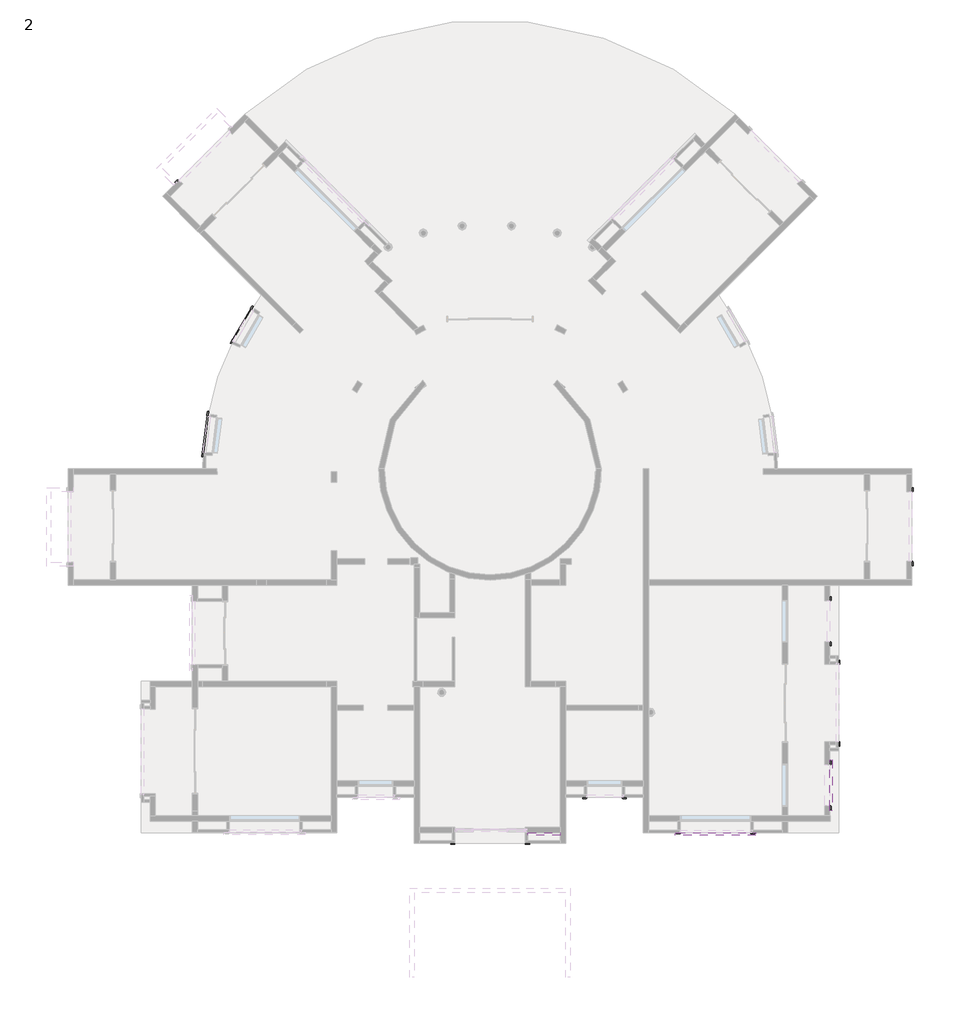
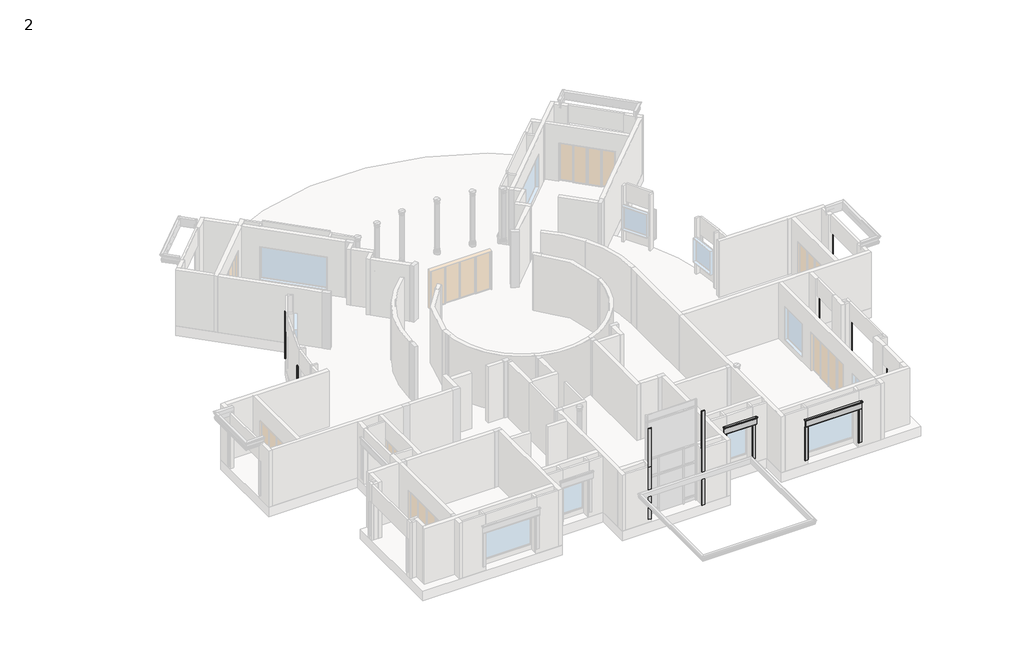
# One storey, part 9 of 10: 24 proxies.
"""IFC4 building model written with IfcOpenShell, lengths in millimetres."""

from ifc_helpers import new_model, si_unit, point, frame, frame_2d, origin, origin_with_axes, place, context, project, spatial, polyline, circle_curve, ellipse_curve, trimmed, segment, composite_curve, outline, extrude, element, save
from ifc_brep_helpers import plane_surface, cylinder_surface, revolved_surface, advanced_brep

model = new_model("IFC4")

# Units and contexts
model_context = context("Model", 3, world=origin())
ifc_project = project(units=[si_unit("LENGTHUNIT", "METRE", prefix="MILLI")], contexts=[model_context])

# Site, building, storey
site = spatial("IfcSite", under=ifc_project)
building = spatial("IfcBuilding", under=site)
storey = spatial("IfcBuildingStorey", under=building, Name="2", Elevation=0.0)

# Proxies
placement = place(None, origin())
element("IfcBuildingElementProxy", 1, Name="Cornice", ObjectType="Cornice", at=placement, inside=storey, context=model_context, shape_type="SweptSolid", body=[
    extrude(outline(polyline([(-4381.894385, -13677.6181763), (-4197.744385, -13677.6181763), (-4197.744385, -13715.7181763), (-4229.494385, -13715.7181763), (-4229.494385, -13728.4181763), (-4381.894385, -13728.4181763), (-4381.894385, -13677.6181763)])), frame((0.0, 0.0, 304.8), z_axis=(0.0, 0.0, 1.0), x_axis=(1.0, 0.0, 0.0)), (0.0, 0.0, 1.0), 2133.6),
])
element("IfcBuildingElementProxy", 2, Name="Cornice", ObjectType="Cornice", at=placement, inside=storey, context=model_context, shape_type="SweptSolid", body=[
    extrude(outline(polyline([(-2489.594385, -13677.6181763), (-2489.594385, -13728.4181763), (-2641.994385, -13728.4181763), (-2641.994385, -13715.7181763), (-2673.744385, -13715.7181763), (-2673.744385, -13677.6181763), (-2489.594385, -13677.6181763)])), frame((0.0, 0.0, 279.4), z_axis=(0.0, 0.0, 1.0), x_axis=(1.0, 0.0, 0.0)), (0.0, 0.0, 1.0), 2159.0),
])
element("IfcBuildingElementProxy", 3, Name="Cornice", ObjectType="Cornice", at=placement, inside=storey, context=model_context, shape_type="SweptSolid", body=[
    extrude(outline(polyline([(6697.9385697, -11461.4681763), (6697.9385697, -11277.3181763), (6736.0385697, -11277.3181763), (6736.0385697, -11309.0681763), (6748.7385697, -11309.0681763), (6748.7385697, -11461.4681763), (6697.9385697, -11461.4681763)])), frame((0.0, 0.0, 279.4), z_axis=(0.0, 0.0, 1.0), x_axis=(1.0, 0.0, 0.0)), (0.0, 0.0, 1.0), 2159.0),
])
element("IfcBuildingElementProxy", 4, Name="Cornice", ObjectType="Cornice", at=placement, inside=storey, context=model_context, shape_type="SweptSolid", body=[
    extrude(outline(polyline([(6697.9550044, -7740.3681763), (6748.7550044, -7740.3681763), (6748.7550044, -7892.7681763), (6736.0550044, -7892.7681763), (6736.0550044, -7924.5181763), (6697.9550044, -7924.5181763), (6697.9550044, -7740.3681763)])), frame((0.0, 0.0, 304.8), z_axis=(0.0, 0.0, 1.0), x_axis=(1.0, 0.0, 0.0)), (0.0, 0.0, 1.0), 2133.6),
])
element("IfcBuildingElementProxy", 5, Name="Cornice", ObjectType="Cornice", at=placement, inside=storey, context=model_context, shape_type="SweptSolid", body=[
    extrude(outline(polyline([(9861.3049094, -273.5693311), (9912.1049094, -273.5693311), (9912.1049094, -425.9693311), (9899.4049094, -425.9693311), (9899.4049094, -457.7193311), (9861.3049094, -457.7193311), (9861.3049094, -273.5693311)])), frame((0.0, 0.0, 254.0), z_axis=(0.0, 0.0, 1.0), x_axis=(1.0, 0.0, 0.0)), (0.0, 0.0, 1.0), 2184.4),
])
element("IfcBuildingElementProxy", 6, Name="Cornice", ObjectType="Cornice", at=placement, inside=storey, context=model_context, shape_type="SweptSolid", body=[
    extrude(outline(polyline([(9861.3049094, -3651.7693311), (9861.3049094, -3467.6193311), (9899.4049094, -3467.6193311), (9899.4049094, -3499.3693311), (9912.1049094, -3499.3693311), (9912.1049094, -3651.7693311), (9861.3049094, -3651.7693311)])), frame((0.0, 0.0, 238.0), z_axis=(0.0, 0.0, 1.0), x_axis=(1.0, 0.0, 0.0)), (0.0, 0.0, 1.0), 2209.8),
])
element("IfcBuildingElementProxy", 7, Name="Cornice", ObjectType="Cornice", at=placement, inside=storey, context=model_context, shape_type="SweptSolid", body=[
    extrude(outline(polyline([(6317.0878641, -12083.7681763), (6367.8878641, -12083.7681763), (6367.8878641, -12236.1681763), (6355.1878641, -12236.1681763), (6355.1878641, -12267.9181763), (6317.0878641, -12267.9181763), (6317.0878641, -12083.7681763)])), origin_with_axes(), (0.0, 0.0, 1.0), 2438.4),
])
element("IfcBuildingElementProxy", 8, Name="Cornice", ObjectType="Cornice", at=placement, inside=storey, context=model_context, shape_type="SweptSolid", body=[
    extrude(outline(polyline([(6317.0878641, -7116.5776926), (6317.0878641, -6932.4276926), (6355.1878641, -6932.4276926), (6355.1878641, -6964.1776926), (6367.8878641, -6964.1776926), (6367.8878641, -7116.5776926), (6317.0878641, -7116.5776926)])), frame((0.0, 0.0, 152.4), z_axis=(0.0, 0.0, 1.0), x_axis=(1.0, 0.0, 0.0)), (0.0, 0.0, 1.0), 2286.0),
])
element("IfcBuildingElementProxy", 9, Name="Cornice", ObjectType="Cornice", at=placement, inside=storey, context=model_context, shape_type="SweptSolid", body=[
    extrude(outline(polyline([(6317.0878641, -4985.2693311), (6367.8878641, -4985.2693311), (6367.8878641, -5137.6693311), (6355.1878641, -5137.6693311), (6355.1878641, -5169.4193311), (6317.0878641, -5169.4193311), (6317.0878641, -4985.2693311)])), origin_with_axes(), (0.0, 0.0, 1.0), 2438.4),
])
element("IfcBuildingElementProxy", 10, Name="Cornice", ObjectType="Cornice", at=placement, inside=storey, context=model_context, shape_type="SweptSolid", body=[
    extrude(outline(polyline([(6317.0878641, -14218.1693311), (6317.0878641, -14034.0193311), (6355.1878641, -14034.0193311), (6355.1878641, -14065.7693311), (6367.8878641, -14065.7693311), (6367.8878641, -14218.1693311), (6317.0878641, -14218.1693311)])), origin_with_axes(), (0.0, 0.0, 1.0), 2438.4),
])
element("IfcBuildingElementProxy", 11, Name="Cornice", ObjectType="Cornice", at=placement, inside=storey, context=model_context, shape_type="SweptSolid", body=[
    extrude(outline(polyline([(-21980.6935992, 12894.6840889), (-22016.6146237, 12930.6051134), (-21908.8515503, 13038.3681869), (-21899.8712941, 13029.3879307), (-21877.4206538, 13051.8385711), (-21850.4798855, 13024.8978027), (-21980.6935992, 12894.6840889)])), frame((0.0, 0.0, 304.8), z_axis=(0.0, 0.0, 1.0), x_axis=(1.0, 0.0, 0.0)), (0.0, 0.0, 1.0), 2133.6),
])
element("IfcBuildingElementProxy", 12, Name="Cornice", ObjectType="Cornice", at=placement, inside=storey, context=model_context, shape_type="SweptSolid", body=[
    extrude(outline(polyline([(-18625.2422279, 7572.7954932), (-18727.2981567, 7419.5120633), (-18759.0119698, 7440.6270831), (-18741.41612, 7467.0552606), (-18751.9873911, 7474.0936005), (-18667.527312, 7600.9488529), (-18625.2422279, 7572.7954932)])), frame((0.0, 0.0, 914.4), z_axis=(0.0, 0.0, 1.0), x_axis=(1.0, 0.0, 0.0)), (0.0, 0.0, 1.0), 1524.0),
])
element("IfcBuildingElementProxy", 13, Name="Cornice", ObjectType="Cornice", at=placement, inside=storey, context=model_context, shape_type="SweptSolid", body=[
    extrude(outline(polyline([(-19488.9991174, 6111.5197259), (-19569.2048506, 5945.7540393), (-19603.5011996, 5962.3483289), (-19589.6726249, 5990.9286197), (-19601.1047412, 5996.4600496), (-19534.7275827, 6133.6454454), (-19488.9991174, 6111.5197259)])), frame((0.0, 0.0, 914.4), z_axis=(0.0, 0.0, 1.0), x_axis=(1.0, 0.0, 0.0)), (0.0, 0.0, 1.0), 1524.0),
])
element("IfcBuildingElementProxy", 14, Name="Cornice", ObjectType="Cornice", at=placement, inside=storey, context=model_context, shape_type="SweptSolid", body=[
    extrude(outline(polyline([(-20564.0189962, 2998.5891327), (-20597.8457618, 2817.572635), (-20635.297451, 2824.5712761), (-20629.46525, 2855.7810171), (-20641.9491464, 2858.1138975), (-20613.9545818, 3007.9206542), (-20564.0189962, 2998.5891327)])), frame((0.0, 0.0, 965.2), z_axis=(0.0, 0.0, 1.0), x_axis=(1.0, 0.0, 0.0)), (0.0, 0.0, 1.0), 1473.2),
])
element("IfcBuildingElementProxy", 15, Name="Cornice", ObjectType="Cornice", at=placement, inside=storey, context=model_context, shape_type="SweptSolid", body=[
    extrude(outline(polyline([(3073.005615, -15202.4193311), (3073.005615, -15253.2193311), (2920.605615, -15253.2193311), (2920.605615, -15240.5193311), (2888.855615, -15240.5193311), (2888.855615, -15202.4193311), (3073.005615, -15202.4193311)])), frame((0.0, 0.0, 304.8), z_axis=(0.0, 0.0, 1.0), x_axis=(1.0, 0.0, 0.0)), (0.0, 0.0, 1.0), 2133.6),
])
element("IfcBuildingElementProxy", 16, Name="Cornice", ObjectType="Cornice", at=placement, inside=storey, context=model_context, shape_type="SweptSolid", body=[
    extrude(outline(polyline([(-20790.8754995, 1235.0551343), (-20798.5116903, 1051.0635283), (-20836.5789192, 1052.6434298), (-20835.2623345, 1084.3661205), (-20847.9514108, 1084.8927544), (-20841.6318046, 1237.1616697), (-20790.8754995, 1235.0551343)])), frame((0.0, 0.0, 965.2), z_axis=(0.0, 0.0, 1.0), x_axis=(1.0, 0.0, 0.0)), (0.0, 0.0, 1.0), 1473.2),
])
element("IfcBuildingElementProxy", 17, Name="Cornice", ObjectType="Cornice", at=placement, inside=storey, context=model_context, shape_type="AdvancedBrep", body=[
    advanced_brep(
    [(-19570.4298556, 5943.2215214, 730.25), (-19570.4298556, 5943.2215214, 914.4), (-19604.7299622, 5959.8080426, 914.4), (-19604.7299622, 5959.8080426, 882.65), (-19616.1633311, 5965.336883, 882.65), (-19616.1633311, 5965.336883, 730.25), (-18638.8972495, 7550.4728354, 730.25), (-18680.8207757, 7579.1618219, 730.25), (-18680.8207757, 7579.1618219, 882.65), (-18670.3398942, 7571.9895753, 882.65), (-18670.3398942, 7571.9895753, 914.4), (-18638.8972495, 7550.4728354, 914.4)],
    [
        (0, 1),
        (1, 2),
        (2, 3),
        (3, 4),
        (4, 5),
        (5, 0),
        (6, 7),
        (7, 8),
        (8, 9),
        (9, 10),
        (10, 11),
        (11, 6),
        (11, 1, circle_curve(frame((-8388.5950904, 536.015621, 914.4), z_axis=(0.0, 0.0, 1.0), x_axis=(-0.9002652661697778, 0.4353417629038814, 0.0)), 12420.6000002)),
        (0, 6, circle_curve(frame((-8388.5950904, 536.015621, 730.25), z_axis=(0.0, 0.0, -1.0), x_axis=(-0.9002652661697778, 0.4353417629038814, 0.0)), 12420.6000002)),
        (10, 2, circle_curve(frame((-8388.5950904, 536.015621, 914.4), z_axis=(0.0, 0.0, 1.0), x_axis=(-0.9002652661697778, 0.4353417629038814, 0.0)), 12458.7000002)),
        (9, 3, circle_curve(frame((-8388.5950904, 536.015621, 882.65), z_axis=(0.0, 0.0, 1.0), x_axis=(-0.9002652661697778, 0.4353417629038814, 0.0)), 12458.7000002)),
        (8, 4, circle_curve(frame((-8388.5950904, 536.015621, 882.65), z_axis=(0.0, 0.0, 1.0), x_axis=(-0.9002652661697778, 0.4353417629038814, 0.0)), 12471.4000002)),
        (7, 5, circle_curve(frame((-8388.5950904, 536.015621, 730.25), z_axis=(0.0, 0.0, 1.0), x_axis=(-0.9002652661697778, 0.4353417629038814, 0.0)), 12471.4000002)),
    ],
    [
        plane_surface(frame((-8388.5950904, 536.015621, 914.4), z_axis=(-0.4353417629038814, -0.9002652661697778, 0.0), x_axis=(-0.9002652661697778, 0.4353417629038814, 0.0))),
        plane_surface(frame((-8388.5950904, 536.015621, 914.4), z_axis=(0.5647438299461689, 0.8252662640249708, 0.0), x_axis=(-0.8252662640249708, 0.5647438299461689, 0.0))),
        revolved_surface(polyline([(-19570.429855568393, 5943.221521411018, 730.25), (-19570.429855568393, 5943.221521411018, 914.4)]), (-8388.5950904, 536.015621, 914.4), (0.0, 0.0, -1.0)),
        plane_surface(frame((-8388.5950904, 536.015621, 914.4), z_axis=(0.0, 0.0, 1.0), x_axis=(-0.9002652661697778, 0.4353417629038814, 0.0))),
        cylinder_surface(frame((-8388.5950904, 536.015621, 914.4), z_axis=(0.0, 0.0, -1.0), x_axis=(-0.9002652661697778, 0.4353417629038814, 0.0)), 12458.7000002),
        plane_surface(frame((-8388.5950904, 536.015621, 882.65), z_axis=(0.0, 0.0, 1.0), x_axis=(-0.9002652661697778, 0.4353417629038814, 0.0))),
        cylinder_surface(frame((-8388.5950904, 536.015621, 914.4), z_axis=(0.0, 0.0, -1.0), x_axis=(-0.9002652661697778, 0.4353417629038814, 0.0)), 12471.4000002),
        plane_surface(frame((-8388.5950904, 536.015621, 730.25), z_axis=(0.0, 0.0, -1.0), x_axis=(-0.9002652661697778, 0.4353417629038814, 0.0))),
    ],
    [
        (0, [[1, 2, 3, 4, 5, 6]]),
        (1, [[7, 8, 9, 10, 11, 12]]),
        (2, [[13, -1, 14, -12]]),
        (3, [[15, -2, -13, -11]]),
        (4, [[16, -3, -15, -10]]),
        (5, [[17, -4, -16, -9]]),
        (6, [[18, -5, -17, -8]]),
        (7, [[-14, -6, -18, -7]]),
    ],
),
])
element("IfcBuildingElementProxy", 18, Name="Cornice", ObjectType="Cornice", at=placement, inside=storey, context=model_context, shape_type="SweptSolid", body=[
    extrude(outline(polyline([(-343.294385, -15202.4193311), (-159.144385, -15202.4193311), (-159.144385, -15240.5193311), (-190.894385, -15240.5193311), (-190.894385, -15253.2193311), (-343.294385, -15253.2193311), (-343.294385, -15202.4193311)])), frame((0.0, 0.0, 304.8), z_axis=(0.0, 0.0, 1.0), x_axis=(1.0, 0.0, 0.0)), (0.0, 0.0, 1.0), 2133.6),
])
element("IfcBuildingElementProxy", 19, Name="Cornice", ObjectType="Cornice", at=placement, inside=storey, context=model_context, shape_type="SweptSolid", body=[
    extrude(outline(polyline([(-10096.894385, -15659.6193311), (-9912.744385, -15659.6193311), (-9912.744385, -15697.7193311), (-9944.494385, -15697.7193311), (-9944.494385, -15710.4193311), (-10096.894385, -15710.4193311), (-10096.894385, -15659.6193311)])), frame((0.0, 0.0, 3581.4), z_axis=(0.0, 0.0, 1.0), x_axis=(1.0, 0.0, 0.0)), (0.0, 0.0, 1.0), 2438.4),
    extrude(outline(polyline([(-10096.894385, -15659.6193311), (-9912.744385, -15659.6193311), (-9912.744385, -15697.7193311), (-9944.494385, -15697.7193311), (-9944.494385, -15710.4193311), (-10096.894385, -15710.4193311), (-10096.894385, -15659.6193311)])), frame((0.0, 0.0, 228.6), z_axis=(0.0, 0.0, 1.0), x_axis=(1.0, 0.0, 0.0)), (0.0, 0.0, 1.0), 3352.8),
])
element("IfcBuildingElementProxy", 20, Name="Cornice", ObjectType="Cornice", at=placement, inside=storey, context=model_context, shape_type="SweptSolid", body=[
    extrude(outline(polyline([(-6680.594385, -15659.6193311), (-6680.594385, -15710.4193311), (-6832.994385, -15710.4193311), (-6832.994385, -15697.7193311), (-6864.744385, -15697.7193311), (-6864.744385, -15659.6193311), (-6680.594385, -15659.6193311)])), origin_with_axes(), (0.0, 0.0, 1.0), 6019.8),
])
element("IfcBuildingElementProxy", 21, Name="Cornice", ObjectType="Cornice", at=placement, inside=storey, context=model_context, shape_type="AdvancedBrep", body=[
    advanced_brep(
    [(-20798.5116903, 1051.0635283, 946.15), (-20849.2679955, 1053.1700637, 946.15), (-20849.2679955, 1053.1700637, 793.75), (-20836.5789192, 1052.6434298, 793.75), (-20836.5789192, 1052.6434298, 762.0), (-20798.5116903, 1051.0635283, 762.0), (-20556.8429576, 3027.0090389, 946.15), (-20556.8429576, 3027.0090389, 762.0), (-20594.1688713, 3034.650123, 762.0), (-20594.1688713, 3034.650123, 793.75), (-20606.6108425, 3037.197151, 793.75), (-20606.6108425, 3037.197151, 946.15)],
    [
        (0, 1),
        (1, 2),
        (2, 3),
        (3, 4),
        (4, 5),
        (5, 0),
        (6, 7),
        (7, 8),
        (8, 9),
        (9, 10),
        (10, 11),
        (11, 6),
        (11, 1, circle_curve(frame((-8388.5950905, 536.0156211, 946.15), z_axis=(0.0, 0.0, 1.0), x_axis=(-0.9991398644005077, 0.04146723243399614, 0.0)), 12471.4000001)),
        (0, 6, circle_curve(frame((-8388.5950905, 536.0156211, 946.15), z_axis=(0.0, 0.0, -1.0), x_axis=(-0.9991398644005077, 0.04146723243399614, 0.0)), 12420.6000001)),
        (10, 2, circle_curve(frame((-8388.5950905, 536.0156211, 793.75), z_axis=(0.0, 0.0, 1.0), x_axis=(-0.9991398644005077, 0.04146723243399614, 0.0)), 12471.4000001)),
        (9, 3, circle_curve(frame((-8388.5950905, 536.0156211, 793.75), z_axis=(0.0, 0.0, 1.0), x_axis=(-0.9991398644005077, 0.04146723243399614, 0.0)), 12458.7000001)),
        (8, 4, circle_curve(frame((-8388.5950905, 536.0156211, 762.0), z_axis=(0.0, 0.0, 1.0), x_axis=(-0.9991398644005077, 0.04146723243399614, 0.0)), 12458.7000001)),
        (7, 5, circle_curve(frame((-8388.5950905, 536.0156211, 762.0), z_axis=(0.0, 0.0, 1.0), x_axis=(-0.9991398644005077, 0.04146723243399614, 0.0)), 12420.6000001)),
    ],
    [
        plane_surface(frame((-8388.5950905, 536.0156211, 762.0), z_axis=(-0.04146723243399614, -0.9991398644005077, 0.0), x_axis=(-0.9991398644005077, 0.04146723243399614, 0.0))),
        plane_surface(frame((-8388.5950905, 536.0156211, 762.0), z_axis=(0.20055338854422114, 0.9796827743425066, 0.0), x_axis=(-0.9796827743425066, 0.20055338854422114, 0.0))),
        plane_surface(frame((-8388.5950905, 536.0156211, 946.15), z_axis=(0.0, 0.0, 1.0), x_axis=(-0.9991398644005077, 0.04146723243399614, 0.0))),
        cylinder_surface(frame((-8388.5950905, 536.0156211, 762.0), z_axis=(0.0, 0.0, -1.0), x_axis=(-0.9991398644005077, 0.04146723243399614, 0.0)), 12471.4000001),
        plane_surface(frame((-8388.5950905, 536.0156211, 793.75), z_axis=(0.0, 0.0, -1.0), x_axis=(-0.9991398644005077, 0.04146723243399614, 0.0))),
        cylinder_surface(frame((-8388.5950905, 536.0156211, 762.0), z_axis=(0.0, 0.0, -1.0), x_axis=(-0.9991398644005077, 0.04146723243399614, 0.0)), 12458.7000001),
        plane_surface(frame((-8388.5950905, 536.0156211, 762.0), z_axis=(0.0, 0.0, -1.0), x_axis=(-0.9991398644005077, 0.04146723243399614, 0.0))),
        revolved_surface(polyline([(-20798.511690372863, 1051.063528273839, 762.0), (-20798.511690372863, 1051.063528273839, 946.15)]), (-8388.5950905, 536.0156211, 762.0), (0.0, 0.0, -1.0)),
    ],
    [
        (0, [[1, 2, 3, 4, 5, 6]]),
        (1, [[7, 8, 9, 10, 11, 12]]),
        (2, [[13, -1, 14, -12]]),
        (3, [[15, -2, -13, -11]]),
        (4, [[16, -3, -15, -10]]),
        (5, [[17, -4, -16, -9]]),
        (6, [[18, -5, -17, -8]]),
        (7, [[-14, -6, -18, -7]]),
    ],
),
])
element("IfcBuildingElementProxy", 22, Name="Cornice 2", ObjectType="Cornice 2", at=placement, inside=storey, context=model_context, shape_type="SweptSolid", body=[
    extrude(outline(composite_curve([segment(polyline([(-15310.3693311, 3238.5), (-15202.4193311, 3238.5), (-15202.4193311, 2743.2), (-15263.1124745, 2743.2), (-15263.1124745, 2787.65), (-15275.8124745, 2787.65), (-15275.8124745, 3143.25), (-15291.3193311, 3143.25), (-15291.3193311, 3162.3)]), True, "CONTINUOUS"), segment(trimmed(circle_curve(frame_2d((-15278.89139, 3187.7)), 28.2774419), [point((-15291.3193311, 3162.3))], [point((-15291.3193311, 3213.1))], False, "CARTESIAN"), True, "CONTINUOUS"), segment(polyline([(-15291.3193311, 3213.1), (-15310.3693311, 3213.1), (-15310.3693311, 3238.5)]), True, "CONTINUOUS")], self_intersect=False)), frame((-11436.5950906, 0.0, 0.0), z_axis=(1.0, 0.0, 0.0), x_axis=(0.0, 1.0, 0.0)), (0.0, 0.0, 1.0), 1409.5507056),
    extrude(outline(composite_curve([segment(polyline([(-15310.3693311, 3238.5), (-15202.4193311, 3238.5), (-15202.4193311, 2743.2), (-15263.1124745, 2743.2), (-15263.1124745, 2787.65), (-15275.8124745, 2787.65), (-15275.8124745, 3143.25), (-15291.3193311, 3143.25), (-15291.3193311, 3162.3)]), True, "CONTINUOUS"), segment(trimmed(circle_curve(frame_2d((-15278.89139, 3187.7)), 28.2774419), [point((-15291.3193311, 3162.3))], [point((-15291.3193311, 3213.1))], False, "CARTESIAN"), True, "CONTINUOUS"), segment(polyline([(-15291.3193311, 3213.1), (-15310.3693311, 3213.1), (-15310.3693311, 3238.5)]), True, "CONTINUOUS")], self_intersect=False)), frame((-6750.444385, 0.0, 0.0), z_axis=(1.0, 0.0, 0.0), x_axis=(0.0, 1.0, 0.0)), (0.0, 0.0, 1.0), 1409.8492944),
])
element("IfcBuildingElementProxy", 23, Name="Cornice 2", ObjectType="Cornice 2", at=placement, inside=storey, context=model_context, shape_type="AdvancedBrep", body=[
    advanced_brep(
    [(6317.0878641, -14243.5693311, 2933.7), (6317.0878641, -14135.6193311, 2933.7), (6317.0878641, -14135.6193311, 2438.4), (6317.0878641, -14196.3124745, 2438.4), (6317.0878641, -14196.3124745, 2482.85), (6317.0878641, -14209.0124745, 2482.85), (6317.0878641, -14209.0124745, 2838.45), (6317.0878641, -14224.5193311, 2838.45), (6317.0878641, -14224.5193311, 2857.5), (6317.0878641, -14224.5193311, 2908.3), (6317.0878641, -14243.5693311, 2908.3), (6425.0378641, -14243.5693311, 2933.7), (6377.7810075, -14196.3124745, 2438.4), (6377.7810075, -14196.3124745, 2482.85), (6390.4810075, -14209.0124745, 2482.85), (6390.4810075, -14209.0124745, 2838.45), (6405.9878641, -14224.5193311, 2838.45), (6405.9878641, -14224.5193311, 2857.5), (6405.9878641, -14224.5193311, 2908.3), (6425.0378641, -14243.5693311, 2908.3), (6425.0378641, -12046.4693311, 2933.7), (6317.0878641, -12154.4193311, 2933.7), (6317.0878641, -12154.4193311, 2438.4), (6377.7810075, -12093.7261878, 2438.4), (6377.7810075, -12093.7261878, 2482.85), (6390.4810075, -12081.0261878, 2482.85), (6390.4810075, -12081.0261878, 2838.45), (6405.9878641, -12065.5193311, 2838.45), (6405.9878641, -12065.5193311, 2857.5), (6405.9878641, -12065.5193311, 2908.3), (6425.0378641, -12046.4693311, 2908.3), (6317.0878641, -12046.4693311, 2933.7), (6317.0878641, -12046.4693311, 2908.3), (6317.0878641, -12065.5193311, 2908.3), (6317.0878641, -12065.5193311, 2857.5), (6317.0878641, -12065.5193311, 2838.45), (6317.0878641, -12081.0261878, 2838.45), (6317.0878641, -12081.0261878, 2482.85), (6317.0878641, -12093.7261878, 2482.85), (6317.0878641, -12093.7261878, 2438.4)],
    [
        (0, 1),
        (1, 2),
        (2, 3),
        (3, 4),
        (4, 5),
        (5, 6),
        (6, 7),
        (7, 8),
        (8, 9, circle_curve(frame((6317.0878641, -14212.09139, 2882.9), z_axis=(-1.0, 0.0, 0.0), x_axis=(0.0, -1.0, 0.0)), 28.2774419)),
        (9, 10),
        (10, 0),
        (0, 11),
        (11, 1),
        (2, 12),
        (12, 3),
        (12, 13),
        (13, 4),
        (13, 14),
        (14, 5),
        (14, 15),
        (15, 6),
        (15, 16),
        (16, 7),
        (16, 17),
        (17, 8),
        (17, 18, ellipse_curve(frame((6393.559923, -14212.09139, 2882.9), z_axis=(-0.7071067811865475, -0.7071067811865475, 0.0), x_axis=(-0.7071067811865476, 0.7071067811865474, 0.0)), 39.9903419, 28.2774419)),
        (18, 9),
        (18, 19),
        (19, 10),
        (19, 11),
        (11, 20),
        (20, 21),
        (21, 1),
        (21, 22),
        (22, 2),
        (22, 23),
        (23, 12),
        (23, 24),
        (24, 13),
        (24, 25),
        (25, 14),
        (25, 26),
        (26, 15),
        (26, 27),
        (27, 16),
        (27, 28),
        (28, 17),
        (28, 29, ellipse_curve(frame((6393.559923, -12077.9472723, 2882.9), z_axis=(0.7071067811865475, -0.7071067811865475, 0.0), x_axis=(-0.7071067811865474, -0.7071067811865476, 0.0)), 39.9903419, 28.2774419)),
        (29, 18),
        (29, 30),
        (30, 19),
        (30, 20),
        (31, 32),
        (32, 33),
        (33, 34, circle_curve(frame((6317.0878641, -12077.9472723, 2882.9), z_axis=(-1.0, 0.0, 0.0), x_axis=(0.0, 1.0, 0.0)), 28.2774419)),
        (34, 35),
        (35, 36),
        (36, 37),
        (37, 38),
        (38, 39),
        (39, 22),
        (21, 31),
        (20, 31),
        (39, 23),
        (38, 24),
        (37, 25),
        (36, 26),
        (35, 27),
        (34, 28),
        (33, 29),
        (32, 30),
    ],
    [
        plane_surface(frame((6317.0878641, -14034.0193311, 2438.4), z_axis=(-1.0, 0.0, 0.0), x_axis=(0.0, 1.0, 0.0))),
        plane_surface(frame((6317.0878641, -14243.5693311, 2933.7), z_axis=(0.0, 0.0, 1.0), x_axis=(1.0, 0.0, 0.0))),
        plane_surface(frame((6317.0878641, -14135.6193311, 2438.4), z_axis=(0.0, 0.0, -1.0), x_axis=(1.0, 0.0, 0.0))),
        plane_surface(frame((6317.0878641, -14196.3124745, 2438.4), z_axis=(0.0, -1.0, 0.0), x_axis=(1.0, 0.0, 0.0))),
        plane_surface(frame((6317.0878641, -14196.3124745, 2482.85), z_axis=(0.0, 0.0, -1.0), x_axis=(1.0, 0.0, 0.0))),
        plane_surface(frame((6317.0878641, -14209.0124745, 2482.85), z_axis=(0.0, -1.0, 0.0), x_axis=(1.0, 0.0, 0.0))),
        plane_surface(frame((6317.0878641, -14209.0124745, 2838.45), z_axis=(0.0, 0.0, -1.0), x_axis=(1.0, 0.0, 0.0))),
        plane_surface(frame((6317.0878641, -14224.5193311, 2838.45), z_axis=(0.0, -1.0, 0.0), x_axis=(1.0, 0.0, 0.0))),
        cylinder_surface(frame((6317.0878641, -14212.09139, 2882.9), z_axis=(-1.0, 0.0, 0.0), x_axis=(0.0, -1.0, 0.0)), 28.2774419),
        plane_surface(frame((6317.0878641, -14224.5193311, 2908.3), z_axis=(0.0, 0.0, -1.0), x_axis=(1.0, 0.0, 0.0))),
        plane_surface(frame((6317.0878641, -14243.5693311, 2908.3), z_axis=(0.0, -1.0, 0.0), x_axis=(1.0, 0.0, 0.0))),
        plane_surface(frame((6425.0378641, -14243.5693311, 2933.7), z_axis=(0.0, 0.0, 1.0), x_axis=(0.0, 1.0, 0.0))),
        plane_surface(frame((6317.0878641, -14135.6193311, 2933.7), z_axis=(-1.0, 0.0, 0.0), x_axis=(0.0, 1.0, 0.0))),
        plane_surface(frame((6317.0878641, -14135.6193311, 2438.4), z_axis=(0.0, 0.0, -1.0), x_axis=(0.0, 1.0, 0.0))),
        plane_surface(frame((6377.7810075, -14196.3124745, 2438.4), z_axis=(1.0, 0.0, 0.0), x_axis=(0.0, 1.0, 0.0))),
        plane_surface(frame((6377.7810075, -14196.3124745, 2482.85), z_axis=(0.0, 0.0, -1.0), x_axis=(0.0, 1.0, 0.0))),
        plane_surface(frame((6390.4810075, -14209.0124745, 2482.85), z_axis=(1.0, 0.0, 0.0), x_axis=(0.0, 1.0, 0.0))),
        plane_surface(frame((6390.4810075, -14209.0124745, 2838.45), z_axis=(0.0, 0.0, -1.0), x_axis=(0.0, 1.0, 0.0))),
        plane_surface(frame((6405.9878641, -14224.5193311, 2838.45), z_axis=(1.0, 0.0, 0.0), x_axis=(0.0, 1.0, 0.0))),
        cylinder_surface(frame((6393.559923, -14135.6193311, 2882.9), z_axis=(0.0, -1.0, 0.0), x_axis=(1.0, 0.0, 0.0)), 28.2774419),
        plane_surface(frame((6405.9878641, -14224.5193311, 2908.3), z_axis=(0.0, 0.0, -1.0), x_axis=(0.0, 1.0, 0.0))),
        plane_surface(frame((6425.0378641, -14243.5693311, 2908.3), z_axis=(1.0, 0.0, 0.0), x_axis=(0.0, 1.0, 0.0))),
        plane_surface(frame((6425.0378641, -12046.4693311, 2933.7), z_axis=(0.0, 0.0, 1.0), x_axis=(-1.0, 0.0, 0.0))),
        plane_surface(frame((6317.0878641, -12154.4193311, 2438.4), z_axis=(0.0, 0.0, -1.0), x_axis=(-1.0, 0.0, 0.0))),
        plane_surface(frame((6377.7810075, -12093.7261878, 2438.4), z_axis=(0.0, 1.0, 0.0), x_axis=(-1.0, 0.0, 0.0))),
        plane_surface(frame((6377.7810075, -12093.7261878, 2482.85), z_axis=(0.0, 0.0, -1.0), x_axis=(-1.0, 0.0, 0.0))),
        plane_surface(frame((6390.4810075, -12081.0261878, 2482.85), z_axis=(0.0, 1.0, 0.0), x_axis=(-1.0, 0.0, 0.0))),
        plane_surface(frame((6390.4810075, -12081.0261878, 2838.45), z_axis=(0.0, 0.0, -1.0), x_axis=(-1.0, 0.0, 0.0))),
        plane_surface(frame((6405.9878641, -12065.5193311, 2838.45), z_axis=(0.0, 1.0, 0.0), x_axis=(-1.0, 0.0, 0.0))),
        cylinder_surface(frame((6317.0878641, -12077.9472723, 2882.9), z_axis=(1.0, 0.0, 0.0), x_axis=(0.0, 1.0, 0.0)), 28.2774419),
        plane_surface(frame((6405.9878641, -12065.5193311, 2908.3), z_axis=(0.0, 0.0, -1.0), x_axis=(-1.0, 0.0, 0.0))),
        plane_surface(frame((6425.0378641, -12046.4693311, 2908.3), z_axis=(0.0, 1.0, 0.0), x_axis=(-1.0, 0.0, 0.0))),
    ],
    [
        (0, [[1, 2, 3, 4, 5, 6, 7, 8, 9, 10, 11]]),
        (1, [[-1, 12, 13]]),
        (2, [[-3, 14, 15]]),
        (3, [[-4, -15, 16, 17]]),
        (4, [[-5, -17, 18, 19]]),
        (5, [[-6, -19, 20, 21]]),
        (6, [[-7, -21, 22, 23]]),
        (7, [[-8, -23, 24, 25]]),
        (8, [[-9, -25, 26, 27]]),
        (9, [[-10, -27, 28, 29]]),
        (10, [[-11, -29, 30, -12]]),
        (11, [[-13, 31, 32, 33]]),
        (12, [[-2, -33, 34, 35]]),
        (13, [[-14, -35, 36, 37]]),
        (14, [[-16, -37, 38, 39]]),
        (15, [[-18, -39, 40, 41]]),
        (16, [[-20, -41, 42, 43]]),
        (17, [[-22, -43, 44, 45]]),
        (18, [[-24, -45, 46, 47]]),
        (19, [[-26, -47, 48, 49]]),
        (20, [[-28, -49, 50, 51]]),
        (21, [[-30, -51, 52, -31]]),
        (0, [[53, 54, 55, 56, 57, 58, 59, 60, 61, -34, 62]]),
        (22, [[-32, 63, -62]]),
        (23, [[-36, -61, 64]]),
        (24, [[-38, -64, -60, 65]]),
        (25, [[-40, -65, -59, 66]]),
        (26, [[-42, -66, -58, 67]]),
        (27, [[-44, -67, -57, 68]]),
        (28, [[-46, -68, -56, 69]]),
        (29, [[-48, -69, -55, 70]]),
        (30, [[-50, -70, -54, 71]]),
        (31, [[-52, -71, -53, -63]]),
    ],
),
])
element("IfcBuildingElementProxy", 24, Name="Cornice 2", ObjectType="Cornice 2", at=placement, inside=storey, context=model_context, shape_type="AdvancedBrep", body=[
    advanced_brep(
    [(-4407.294385, -13677.6181763, 2933.7), (-4299.344385, -13677.6181763, 2933.7), (-4299.344385, -13677.6181763, 2438.4), (-4360.0375283, -13677.6181763, 2438.4), (-4360.0375283, -13677.6181763, 2482.85), (-4372.7375283, -13677.6181763, 2482.85), (-4372.7375283, -13677.6181763, 2838.45), (-4388.244385, -13677.6181763, 2838.45), (-4388.244385, -13677.6181763, 2857.5), (-4388.244385, -13677.6181763, 2908.3), (-4407.294385, -13677.6181763, 2908.3), (-4407.294385, -13785.5681763, 2933.7), (-4360.0375283, -13738.3113196, 2438.4), (-4360.0375283, -13738.3113196, 2482.85), (-4372.7375283, -13751.0113196, 2482.85), (-4372.7375283, -13751.0113196, 2838.45), (-4388.244385, -13766.5181763, 2838.45), (-4388.244385, -13766.5181763, 2857.5), (-4388.244385, -13766.5181763, 2908.3), (-4407.294385, -13785.5681763, 2908.3), (-2381.644385, -13785.5681763, 2933.7), (-2489.594385, -13677.6181763, 2933.7), (-2489.594385, -13677.6181763, 2438.4), (-2428.9012417, -13738.3113196, 2438.4), (-2428.9012417, -13738.3113196, 2482.85), (-2416.2012417, -13751.0113196, 2482.85), (-2416.2012417, -13751.0113196, 2838.45), (-2400.694385, -13766.5181763, 2838.45), (-2400.694385, -13766.5181763, 2857.5), (-2400.694385, -13766.5181763, 2908.3), (-2381.644385, -13785.5681763, 2908.3), (-2381.644385, -13677.6181763, 2933.7), (-2381.644385, -13677.6181763, 2908.3), (-2400.694385, -13677.6181763, 2908.3), (-2400.694385, -13677.6181763, 2857.5), (-2400.694385, -13677.6181763, 2838.45), (-2416.2012417, -13677.6181763, 2838.45), (-2416.2012417, -13677.6181763, 2482.85), (-2428.9012417, -13677.6181763, 2482.85), (-2428.9012417, -13677.6181763, 2438.4)],
    [
        (0, 1),
        (1, 2),
        (2, 3),
        (3, 4),
        (4, 5),
        (5, 6),
        (6, 7),
        (7, 8),
        (8, 9, circle_curve(frame((-4375.8164439, -13677.6181763, 2882.9), z_axis=(0.0, 1.0, 0.0), x_axis=(-1.0, 0.0, 0.0)), 28.2774419)),
        (9, 10),
        (10, 0),
        (0, 11),
        (11, 1),
        (2, 12),
        (12, 3),
        (12, 13),
        (13, 4),
        (13, 14),
        (14, 5),
        (14, 15),
        (15, 6),
        (15, 16),
        (16, 7),
        (16, 17),
        (17, 8),
        (17, 18, ellipse_curve(frame((-4375.8164439, -13754.0902351, 2882.9), z_axis=(-0.7071067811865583, 0.7071067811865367, 0.0), x_axis=(0.7071067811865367, 0.7071067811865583, 0.0)), 39.9903419, 28.2774419)),
        (18, 9),
        (18, 19),
        (19, 10),
        (19, 11),
        (11, 20),
        (20, 21),
        (21, 1),
        (21, 22),
        (22, 2),
        (22, 23),
        (23, 12),
        (23, 24),
        (24, 13),
        (24, 25),
        (25, 14),
        (25, 26),
        (26, 15),
        (26, 27),
        (27, 16),
        (27, 28),
        (28, 17),
        (28, 29, ellipse_curve(frame((-2413.1223262, -13754.0902351, 2882.9), z_axis=(-0.7071067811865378, -0.7071067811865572, 0.0), x_axis=(-0.7071067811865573, 0.7071067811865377, 0.0)), 39.9903419, 28.2774419)),
        (29, 18),
        (29, 30),
        (30, 19),
        (30, 20),
        (31, 32),
        (32, 33),
        (33, 34, circle_curve(frame((-2413.1223262, -13677.6181763, 2882.9), z_axis=(0.0, 1.0, 0.0), x_axis=(1.0, 0.0, 0.0)), 28.2774419)),
        (34, 35),
        (35, 36),
        (36, 37),
        (37, 38),
        (38, 39),
        (39, 22),
        (21, 31),
        (20, 31),
        (39, 23),
        (38, 24),
        (37, 25),
        (36, 26),
        (35, 27),
        (34, 28),
        (33, 29),
        (32, 30),
    ],
    [
        plane_surface(frame((-4197.744385, -13677.6181763, 2438.4), z_axis=(0.0, 1.0, 0.0), x_axis=(1.0, 0.0, 0.0))),
        plane_surface(frame((-4407.294385, -13677.6181763, 2933.7), z_axis=(0.0, 0.0, 1.0), x_axis=(0.0, -1.0, 0.0))),
        plane_surface(frame((-4299.344385, -13677.6181763, 2438.4), z_axis=(0.0, 0.0, -1.0), x_axis=(0.0, -1.0, 0.0))),
        plane_surface(frame((-4360.0375283, -13677.6181763, 2438.4), z_axis=(-1.0, 0.0, 0.0), x_axis=(0.0, -1.0, 0.0))),
        plane_surface(frame((-4360.0375283, -13677.6181763, 2482.85), z_axis=(0.0, 0.0, -1.0), x_axis=(0.0, -1.0, 0.0))),
        plane_surface(frame((-4372.7375283, -13677.6181763, 2482.85), z_axis=(-1.0, 0.0, 0.0), x_axis=(0.0, -1.0, 0.0))),
        plane_surface(frame((-4372.7375283, -13677.6181763, 2838.45), z_axis=(0.0, 0.0, -1.0), x_axis=(0.0, -1.0, 0.0))),
        plane_surface(frame((-4388.244385, -13677.6181763, 2838.45), z_axis=(-1.0, 0.0, 0.0), x_axis=(0.0, -1.0, 0.0))),
        cylinder_surface(frame((-4375.8164439, -13677.6181763, 2882.9), z_axis=(0.0, 1.0, 0.0), x_axis=(-1.0, 0.0, 0.0)), 28.2774419),
        plane_surface(frame((-4388.244385, -13677.6181763, 2908.3), z_axis=(0.0, 0.0, -1.0), x_axis=(0.0, -1.0, 0.0))),
        plane_surface(frame((-4407.294385, -13677.6181763, 2908.3), z_axis=(-1.0, 0.0, 0.0), x_axis=(0.0, -1.0, 0.0))),
        plane_surface(frame((-4407.294385, -13785.5681763, 2933.7), z_axis=(0.0, 0.0, 1.0), x_axis=(1.0, 0.0, 0.0))),
        plane_surface(frame((-4299.344385, -13677.6181763, 2933.7), z_axis=(0.0, 1.0, 0.0), x_axis=(1.0, 0.0, 0.0))),
        plane_surface(frame((-4299.344385, -13677.6181763, 2438.4), z_axis=(0.0, 0.0, -1.0), x_axis=(1.0, 0.0, 0.0))),
        plane_surface(frame((-4360.0375283, -13738.3113196, 2438.4), z_axis=(0.0, -1.0, 0.0), x_axis=(1.0, 0.0, 0.0))),
        plane_surface(frame((-4360.0375283, -13738.3113196, 2482.85), z_axis=(0.0, 0.0, -1.0), x_axis=(1.0, 0.0, 0.0))),
        plane_surface(frame((-4372.7375283, -13751.0113196, 2482.85), z_axis=(0.0, -1.0, 0.0), x_axis=(1.0, 0.0, 0.0))),
        plane_surface(frame((-4372.7375283, -13751.0113196, 2838.45), z_axis=(0.0, 0.0, -1.0), x_axis=(1.0, 0.0, 0.0))),
        plane_surface(frame((-4388.244385, -13766.5181763, 2838.45), z_axis=(0.0, -1.0, 0.0), x_axis=(1.0, 0.0, 0.0))),
        cylinder_surface(frame((-4299.344385, -13754.0902351, 2882.9), z_axis=(-1.0, 0.0, 0.0), x_axis=(0.0, -1.0, 0.0)), 28.2774419),
        plane_surface(frame((-4388.244385, -13766.5181763, 2908.3), z_axis=(0.0, 0.0, -1.0), x_axis=(1.0, 0.0, 0.0))),
        plane_surface(frame((-4407.294385, -13785.5681763, 2908.3), z_axis=(0.0, -1.0, 0.0), x_axis=(1.0, 0.0, 0.0))),
        plane_surface(frame((-2381.644385, -13785.5681763, 2933.7), z_axis=(0.0, 0.0, 1.0), x_axis=(0.0, 1.0, 0.0))),
        plane_surface(frame((-2489.594385, -13677.6181763, 2438.4), z_axis=(0.0, 0.0, -1.0), x_axis=(0.0, 1.0, 0.0))),
        plane_surface(frame((-2428.9012417, -13738.3113196, 2438.4), z_axis=(1.0, 0.0, 0.0), x_axis=(0.0, 1.0, 0.0))),
        plane_surface(frame((-2428.9012417, -13738.3113196, 2482.85), z_axis=(0.0, 0.0, -1.0), x_axis=(0.0, 1.0, 0.0))),
        plane_surface(frame((-2416.2012417, -13751.0113196, 2482.85), z_axis=(1.0, 0.0, 0.0), x_axis=(0.0, 1.0, 0.0))),
        plane_surface(frame((-2416.2012417, -13751.0113196, 2838.45), z_axis=(0.0, 0.0, -1.0), x_axis=(0.0, 1.0, 0.0))),
        plane_surface(frame((-2400.694385, -13766.5181763, 2838.45), z_axis=(1.0, 0.0, 0.0), x_axis=(0.0, 1.0, 0.0))),
        cylinder_surface(frame((-2413.1223262, -13677.6181763, 2882.9), z_axis=(0.0, -1.0, 0.0), x_axis=(1.0, 0.0, 0.0)), 28.2774419),
        plane_surface(frame((-2400.694385, -13766.5181763, 2908.3), z_axis=(0.0, 0.0, -1.0), x_axis=(0.0, 1.0, 0.0))),
        plane_surface(frame((-2381.644385, -13785.5681763, 2908.3), z_axis=(1.0, 0.0, 0.0), x_axis=(0.0, 1.0, 0.0))),
    ],
    [
        (0, [[1, 2, 3, 4, 5, 6, 7, 8, 9, 10, 11]]),
        (1, [[-1, 12, 13]]),
        (2, [[-3, 14, 15]]),
        (3, [[-4, -15, 16, 17]]),
        (4, [[-5, -17, 18, 19]]),
        (5, [[-6, -19, 20, 21]]),
        (6, [[-7, -21, 22, 23]]),
        (7, [[-8, -23, 24, 25]]),
        (8, [[-9, -25, 26, 27]]),
        (9, [[-10, -27, 28, 29]]),
        (10, [[-11, -29, 30, -12]]),
        (11, [[-13, 31, 32, 33]]),
        (12, [[-2, -33, 34, 35]]),
        (13, [[-14, -35, 36, 37]]),
        (14, [[-16, -37, 38, 39]]),
        (15, [[-18, -39, 40, 41]]),
        (16, [[-20, -41, 42, 43]]),
        (17, [[-22, -43, 44, 45]]),
        (18, [[-24, -45, 46, 47]]),
        (19, [[-26, -47, 48, 49]]),
        (20, [[-28, -49, 50, 51]]),
        (21, [[-30, -51, 52, -31]]),
        (0, [[53, 54, 55, 56, 57, 58, 59, 60, 61, -34, 62]]),
        (22, [[-32, 63, -62]]),
        (23, [[-36, -61, 64]]),
        (24, [[-38, -64, -60, 65]]),
        (25, [[-40, -65, -59, 66]]),
        (26, [[-42, -66, -58, 67]]),
        (27, [[-44, -67, -57, 68]]),
        (28, [[-46, -68, -56, 69]]),
        (29, [[-48, -69, -55, 70]]),
        (30, [[-50, -70, -54, 71]]),
        (31, [[-52, -71, -53, -63]]),
    ],
),
    advanced_brep(
    [(-368.694385, -15202.4193311, 2933.7), (-260.744385, -15202.4193311, 2933.7), (-260.744385, -15202.4193311, 2438.4), (-321.4375283, -15202.4193311, 2438.4), (-321.4375283, -15202.4193311, 2482.85), (-334.1375283, -15202.4193311, 2482.85), (-334.1375283, -15202.4193311, 2838.45), (-349.644385, -15202.4193311, 2838.45), (-349.644385, -15202.4193311, 2857.5), (-349.644385, -15202.4193311, 2908.3), (-368.694385, -15202.4193311, 2908.3), (-368.694385, -15310.3693311, 2933.7), (-321.4375283, -15263.1124745, 2438.4), (-321.4375283, -15263.1124745, 2482.85), (-334.1375283, -15275.8124745, 2482.85), (-334.1375283, -15275.8124745, 2838.45), (-349.644385, -15291.3193311, 2838.45), (-349.644385, -15291.3193311, 2857.5), (-349.644385, -15291.3193311, 2908.3), (-368.694385, -15310.3693311, 2908.3), (3111.105615, -15310.3693311, 2933.7), (3003.155615, -15202.4193311, 2933.7), (3003.155615, -15202.4193311, 2438.4), (3063.8487583, -15263.1124745, 2438.4), (3063.8487583, -15263.1124745, 2482.85), (3076.5487583, -15275.8124745, 2482.85), (3076.5487583, -15275.8124745, 2838.45), (3092.055615, -15291.3193311, 2838.45), (3092.055615, -15291.3193311, 2857.5), (3092.055615, -15291.3193311, 2908.3), (3111.105615, -15310.3693311, 2908.3), (3111.105615, -15202.4193311, 2933.7), (3111.105615, -15202.4193311, 2908.3), (3092.055615, -15202.4193311, 2908.3), (3092.055615, -15202.4193311, 2857.5), (3092.055615, -15202.4193311, 2838.45), (3076.5487583, -15202.4193311, 2838.45), (3076.5487583, -15202.4193311, 2482.85), (3063.8487583, -15202.4193311, 2482.85), (3063.8487583, -15202.4193311, 2438.4)],
    [
        (0, 1),
        (1, 2),
        (2, 3),
        (3, 4),
        (4, 5),
        (5, 6),
        (6, 7),
        (7, 8),
        (8, 9, circle_curve(frame((-337.2164439, -15202.4193311, 2882.9), z_axis=(0.0, 1.0, 0.0), x_axis=(-1.0, 0.0, 0.0)), 28.2774419)),
        (9, 10),
        (10, 0),
        (0, 11),
        (11, 1),
        (2, 12),
        (12, 3),
        (12, 13),
        (13, 4),
        (13, 14),
        (14, 5),
        (14, 15),
        (15, 6),
        (15, 16),
        (16, 7),
        (16, 17),
        (17, 8),
        (17, 18, ellipse_curve(frame((-337.2164439, -15278.89139, 2882.9), z_axis=(-0.7071067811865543, 0.7071067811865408, 0.0), x_axis=(0.7071067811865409, 0.7071067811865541, 0.0)), 39.9903419, 28.2774419)),
        (18, 9),
        (18, 19),
        (19, 10),
        (19, 11),
        (11, 20),
        (20, 21),
        (21, 1),
        (21, 22),
        (22, 2),
        (22, 23),
        (23, 12),
        (23, 24),
        (24, 13),
        (24, 25),
        (25, 14),
        (25, 26),
        (26, 15),
        (26, 27),
        (27, 16),
        (27, 28),
        (28, 17),
        (28, 29, ellipse_curve(frame((3079.6276738, -15278.89139, 2882.9), z_axis=(-0.7071067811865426, -0.7071067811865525, 0.0), x_axis=(-0.7071067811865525, 0.7071067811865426, 0.0)), 39.9903419, 28.2774419)),
        (29, 18),
        (29, 30),
        (30, 19),
        (30, 20),
        (31, 32),
        (32, 33),
        (33, 34, circle_curve(frame((3079.6276738, -15202.4193311, 2882.9), z_axis=(0.0, 1.0, 0.0), x_axis=(1.0, 0.0, 0.0)), 28.2774419)),
        (34, 35),
        (35, 36),
        (36, 37),
        (37, 38),
        (38, 39),
        (39, 22),
        (21, 31),
        (20, 31),
        (39, 23),
        (38, 24),
        (37, 25),
        (36, 26),
        (35, 27),
        (34, 28),
        (33, 29),
        (32, 30),
    ],
    [
        plane_surface(frame((-159.144385, -15202.4193311, 2438.4), z_axis=(0.0, 1.0, 0.0), x_axis=(1.0, 0.0, 0.0))),
        plane_surface(frame((-368.694385, -15202.4193311, 2933.7), z_axis=(0.0, 0.0, 1.0), x_axis=(0.0, -1.0, 0.0))),
        plane_surface(frame((-260.744385, -15202.4193311, 2438.4), z_axis=(0.0, 0.0, -1.0), x_axis=(0.0, -1.0, 0.0))),
        plane_surface(frame((-321.4375283, -15202.4193311, 2438.4), z_axis=(-1.0, 0.0, 0.0), x_axis=(0.0, -1.0, 0.0))),
        plane_surface(frame((-321.4375283, -15202.4193311, 2482.85), z_axis=(0.0, 0.0, -1.0), x_axis=(0.0, -1.0, 0.0))),
        plane_surface(frame((-334.1375283, -15202.4193311, 2482.85), z_axis=(-1.0, 0.0, 0.0), x_axis=(0.0, -1.0, 0.0))),
        plane_surface(frame((-334.1375283, -15202.4193311, 2838.45), z_axis=(0.0, 0.0, -1.0), x_axis=(0.0, -1.0, 0.0))),
        plane_surface(frame((-349.644385, -15202.4193311, 2838.45), z_axis=(-1.0, 0.0, 0.0), x_axis=(0.0, -1.0, 0.0))),
        cylinder_surface(frame((-337.2164439, -15202.4193311, 2882.9), z_axis=(0.0, 1.0, 0.0), x_axis=(-1.0, 0.0, 0.0)), 28.2774419),
        plane_surface(frame((-349.644385, -15202.4193311, 2908.3), z_axis=(0.0, 0.0, -1.0), x_axis=(0.0, -1.0, 0.0))),
        plane_surface(frame((-368.694385, -15202.4193311, 2908.3), z_axis=(-1.0, 0.0, 0.0), x_axis=(0.0, -1.0, 0.0))),
        plane_surface(frame((-368.694385, -15310.3693311, 2933.7), z_axis=(0.0, 0.0, 1.0), x_axis=(1.0, 0.0, 0.0))),
        plane_surface(frame((-260.744385, -15202.4193311, 2933.7), z_axis=(0.0, 1.0, 0.0), x_axis=(1.0, 0.0, 0.0))),
        plane_surface(frame((-260.744385, -15202.4193311, 2438.4), z_axis=(0.0, 0.0, -1.0), x_axis=(1.0, 0.0, 0.0))),
        plane_surface(frame((-321.4375283, -15263.1124745, 2438.4), z_axis=(0.0, -1.0, 0.0), x_axis=(1.0, 0.0, 0.0))),
        plane_surface(frame((-321.4375283, -15263.1124745, 2482.85), z_axis=(0.0, 0.0, -1.0), x_axis=(1.0, 0.0, 0.0))),
        plane_surface(frame((-334.1375283, -15275.8124745, 2482.85), z_axis=(0.0, -1.0, 0.0), x_axis=(1.0, 0.0, 0.0))),
        plane_surface(frame((-334.1375283, -15275.8124745, 2838.45), z_axis=(0.0, 0.0, -1.0), x_axis=(1.0, 0.0, 0.0))),
        plane_surface(frame((-349.644385, -15291.3193311, 2838.45), z_axis=(0.0, -1.0, 0.0), x_axis=(1.0, 0.0, 0.0))),
        cylinder_surface(frame((-260.744385, -15278.89139, 2882.9), z_axis=(-1.0, 0.0, 0.0), x_axis=(0.0, -1.0, 0.0)), 28.2774419),
        plane_surface(frame((-349.644385, -15291.3193311, 2908.3), z_axis=(0.0, 0.0, -1.0), x_axis=(1.0, 0.0, 0.0))),
        plane_surface(frame((-368.694385, -15310.3693311, 2908.3), z_axis=(0.0, -1.0, 0.0), x_axis=(1.0, 0.0, 0.0))),
        plane_surface(frame((3111.105615, -15310.3693311, 2933.7), z_axis=(0.0, 0.0, 1.0), x_axis=(0.0, 1.0, 0.0))),
        plane_surface(frame((3003.155615, -15202.4193311, 2438.4), z_axis=(0.0, 0.0, -1.0), x_axis=(0.0, 1.0, 0.0))),
        plane_surface(frame((3063.8487583, -15263.1124745, 2438.4), z_axis=(1.0, 0.0, 0.0), x_axis=(0.0, 1.0, 0.0))),
        plane_surface(frame((3063.8487583, -15263.1124745, 2482.85), z_axis=(0.0, 0.0, -1.0), x_axis=(0.0, 1.0, 0.0))),
        plane_surface(frame((3076.5487583, -15275.8124745, 2482.85), z_axis=(1.0, 0.0, 0.0), x_axis=(0.0, 1.0, 0.0))),
        plane_surface(frame((3076.5487583, -15275.8124745, 2838.45), z_axis=(0.0, 0.0, -1.0), x_axis=(0.0, 1.0, 0.0))),
        plane_surface(frame((3092.055615, -15291.3193311, 2838.45), z_axis=(1.0, 0.0, 0.0), x_axis=(0.0, 1.0, 0.0))),
        cylinder_surface(frame((3079.6276738, -15202.4193311, 2882.9), z_axis=(0.0, -1.0, 0.0), x_axis=(1.0, 0.0, 0.0)), 28.2774419),
        plane_surface(frame((3092.055615, -15291.3193311, 2908.3), z_axis=(0.0, 0.0, -1.0), x_axis=(0.0, 1.0, 0.0))),
        plane_surface(frame((3111.105615, -15310.3693311, 2908.3), z_axis=(1.0, 0.0, 0.0), x_axis=(0.0, 1.0, 0.0))),
    ],
    [
        (0, [[1, 2, 3, 4, 5, 6, 7, 8, 9, 10, 11]]),
        (1, [[-1, 12, 13]]),
        (2, [[-3, 14, 15]]),
        (3, [[-4, -15, 16, 17]]),
        (4, [[-5, -17, 18, 19]]),
        (5, [[-6, -19, 20, 21]]),
        (6, [[-7, -21, 22, 23]]),
        (7, [[-8, -23, 24, 25]]),
        (8, [[-9, -25, 26, 27]]),
        (9, [[-10, -27, 28, 29]]),
        (10, [[-11, -29, 30, -12]]),
        (11, [[-13, 31, 32, 33]]),
        (12, [[-2, -33, 34, 35]]),
        (13, [[-14, -35, 36, 37]]),
        (14, [[-16, -37, 38, 39]]),
        (15, [[-18, -39, 40, 41]]),
        (16, [[-20, -41, 42, 43]]),
        (17, [[-22, -43, 44, 45]]),
        (18, [[-24, -45, 46, 47]]),
        (19, [[-26, -47, 48, 49]]),
        (20, [[-28, -49, 50, 51]]),
        (21, [[-30, -51, 52, -31]]),
        (0, [[53, 54, 55, 56, 57, 58, 59, 60, 61, -34, 62]]),
        (22, [[-32, 63, -62]]),
        (23, [[-36, -61, 64]]),
        (24, [[-38, -64, -60, 65]]),
        (25, [[-40, -65, -59, 66]]),
        (26, [[-42, -66, -58, 67]]),
        (27, [[-44, -67, -57, 68]]),
        (28, [[-46, -68, -56, 69]]),
        (29, [[-48, -69, -55, 70]]),
        (30, [[-50, -70, -54, 71]]),
        (31, [[-52, -71, -53, -63]]),
    ],
),
])

save(model, "model.ifc")
